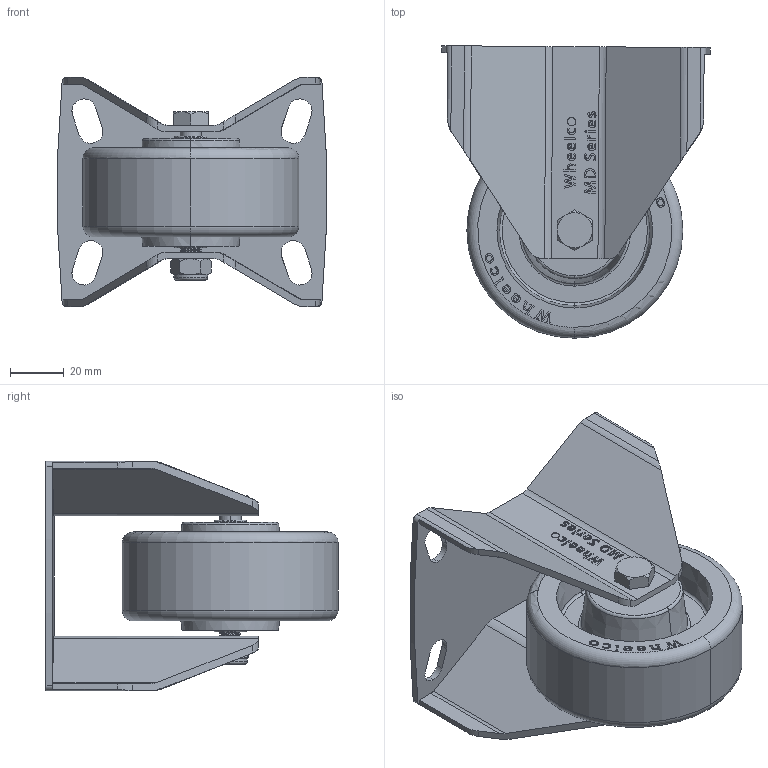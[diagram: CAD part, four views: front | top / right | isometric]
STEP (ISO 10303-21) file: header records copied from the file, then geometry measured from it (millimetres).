
FILE_DESCRIPTION (( 'STEP AP214' ), '1' );
FILE_NAME ('MDU80-F.step', '2024-01-21T22:17:34', ( '' ), ( '' ), 'SwSTEP 2.0', 'SolidWorks 2022', '' );
FILE_SCHEMA (( 'AUTOMOTIVE_DESIGN' ));
Length unit declared in the file: millimetre
Products named in the file (6): SP12-8-41; M8x55; M8Nyloc; MCU80; MD80-F; MDU80-F
Assembly tree (5 placements, depth 2):
  MDU80-F
    M8x55
    MD80-F
    M8Nyloc
    SP12-8-41
    MCU80
Bounding box: 99.61 x 108.33 x 85 mm (x, y, z)
Volume: 184727.9 mm3; surface area: 70822.2 mm2
Topology: 5 solids, 5 shells, 694 faces, 1886 edges, 1249 vertices
Faces by surface type: plane 313, bspline 211, cylinder 124, cone 28, torus 16, sphere 2
Entity records: 37613 total; most frequent: CARTESIAN_POINT 21270, ORIENTED_EDGE 3772, DIRECTION 2444, EDGE_CURVE 1886, VERTEX_POINT 1249, VECTOR 1100, LINE 1100, EDGE_LOOP 759
